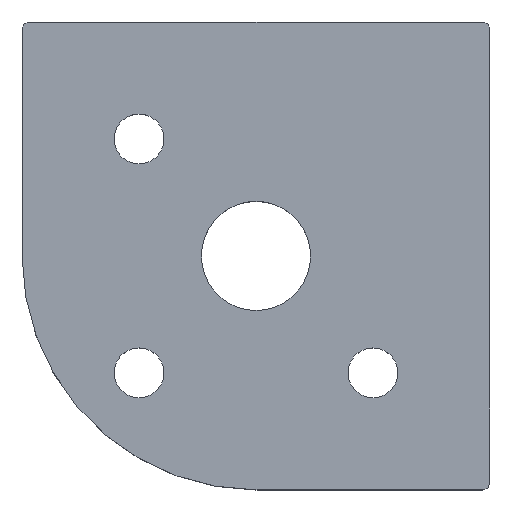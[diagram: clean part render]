
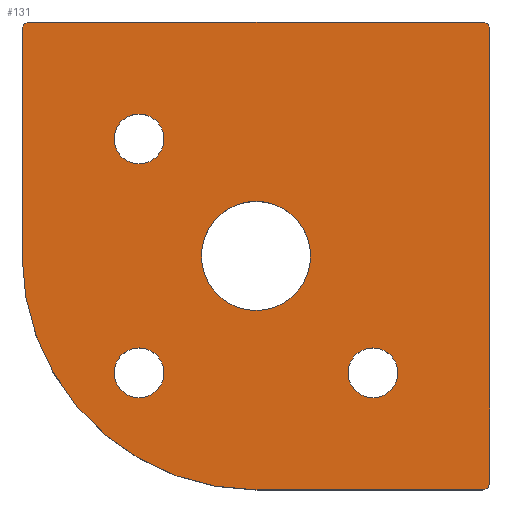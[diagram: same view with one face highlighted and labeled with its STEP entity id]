
A CAD part, top view. The second image highlights one B-rep face of the part: STEP entity #131.
In plain terms, the highlighted planar face has unit normal (0, 0, 1).
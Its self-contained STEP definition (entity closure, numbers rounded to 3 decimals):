
#6 = DIRECTION ( 'NONE',  ( -1., 0., 0. ) ) ;
#13 = CIRCLE ( 'NONE', #484, 7. ) ;
#14 = EDGE_CURVE ( 'NONE', #349, #170, #633, .T. ) ;
#24 = DIRECTION ( 'NONE',  ( -1., 0., 0. ) ) ;
#27 = DIRECTION ( 'NONE',  ( 0., 0., 1. ) ) ;
#33 = CARTESIAN_POINT ( 'NONE',  ( -15., -15., 12. ) ) ;
#38 = VERTEX_POINT ( 'NONE', #677 ) ;
#40 = CARTESIAN_POINT ( 'NONE',  ( -29., 29., 12. ) ) ;
#45 = AXIS2_PLACEMENT_3D ( 'NONE', #434, #337, #351 ) ;
#46 = ORIENTED_EDGE ( 'NONE', *, *, #844, .T. ) ;
#60 = CIRCLE ( 'NONE', #653, 3.2 ) ;
#61 = EDGE_LOOP ( 'NONE', ( #46, #766 ) ) ;
#64 = CARTESIAN_POINT ( 'NONE',  ( 0., -30., 12. ) ) ;
#65 = ORIENTED_EDGE ( 'NONE', *, *, #389, .F. ) ;
#82 = FACE_BOUND ( 'NONE', #759, .T. ) ;
#83 = DIRECTION ( 'NONE',  ( -1., 0., 0. ) ) ;
#87 = FACE_BOUND ( 'NONE', #402, .T. ) ;
#89 = CARTESIAN_POINT ( 'NONE',  ( 15., -15., 12. ) ) ;
#109 = AXIS2_PLACEMENT_3D ( 'NONE', #540, #446, #24 ) ;
#114 = CARTESIAN_POINT ( 'NONE',  ( 0., 0., 12. ) ) ;
#119 = AXIS2_PLACEMENT_3D ( 'NONE', #33, #322, #598 ) ;
#122 = EDGE_LOOP ( 'NONE', ( #911, #817, #895, #336, #65, #275, #395, #495 ) ) ;
#128 = EDGE_LOOP ( 'NONE', ( #265, #261 ) ) ;
#131 = ADVANCED_FACE ( 'NONE', ( #793, #87, #82, #852, #577 ), #358, .F. ) ;
#141 = CIRCLE ( 'NONE', #189, 3.2 ) ;
#148 = VERTEX_POINT ( 'NONE', #217 ) ;
#153 = VERTEX_POINT ( 'NONE', #490 ) ;
#161 = CARTESIAN_POINT ( 'NONE',  ( -30., -30., 12. ) ) ;
#167 = CIRCLE ( 'NONE', #45, 30. ) ;
#170 = VERTEX_POINT ( 'NONE', #291 ) ;
#183 = CIRCLE ( 'NONE', #885, 3.2 ) ;
#187 = EDGE_CURVE ( 'NONE', #497, #230, #167, .T. ) ;
#189 = AXIS2_PLACEMENT_3D ( 'NONE', #235, #668, #241 ) ;
#201 = CARTESIAN_POINT ( 'NONE',  ( -18.2, 15., 12. ) ) ;
#203 = ORIENTED_EDGE ( 'NONE', *, *, #367, .T. ) ;
#204 = EDGE_CURVE ( 'NONE', #332, #279, #183, .T. ) ;
#208 = CARTESIAN_POINT ( 'NONE',  ( -30., 30., 12. ) ) ;
#209 = CIRCLE ( 'NONE', #119, 3.2 ) ;
#211 = VECTOR ( 'NONE', #348, 1000. ) ;
#217 = CARTESIAN_POINT ( 'NONE',  ( -18.2, -15., 12. ) ) ;
#224 = CARTESIAN_POINT ( 'NONE',  ( 30., 30., 12. ) ) ;
#227 = EDGE_CURVE ( 'NONE', #836, #743, #272, .T. ) ;
#230 = VERTEX_POINT ( 'NONE', #64 ) ;
#235 = CARTESIAN_POINT ( 'NONE',  ( -15., -15., 12. ) ) ;
#241 = DIRECTION ( 'NONE',  ( -1., 0., 0. ) ) ;
#242 = EDGE_CURVE ( 'NONE', #325, #153, #13, .T. ) ;
#257 = EDGE_CURVE ( 'NONE', #349, #230, #541, .T. ) ;
#258 = CARTESIAN_POINT ( 'NONE',  ( 15., -15., 12. ) ) ;
#261 = ORIENTED_EDGE ( 'NONE', *, *, #832, .F. ) ;
#265 = ORIENTED_EDGE ( 'NONE', *, *, #242, .F. ) ;
#270 = ORIENTED_EDGE ( 'NONE', *, *, #546, .T. ) ;
#272 = LINE ( 'NONE', #208, #211 ) ;
#275 = ORIENTED_EDGE ( 'NONE', *, *, #750, .T. ) ;
#279 = VERTEX_POINT ( 'NONE', #201 ) ;
#291 = CARTESIAN_POINT ( 'NONE',  ( 30., -29., 12. ) ) ;
#300 = CIRCLE ( 'NONE', #689, 3.2 ) ;
#305 = CARTESIAN_POINT ( 'NONE',  ( 29., 29., 12. ) ) ;
#306 = DIRECTION ( 'NONE',  ( 0., 0., -1. ) ) ;
#313 = DIRECTION ( 'NONE',  ( -1., 0., 0. ) ) ;
#320 = DIRECTION ( 'NONE',  ( 0., 1., 0. ) ) ;
#322 = DIRECTION ( 'NONE',  ( 0., 0., -1. ) ) ;
#325 = VERTEX_POINT ( 'NONE', #698 ) ;
#328 = CARTESIAN_POINT ( 'NONE',  ( 11.8, -15., 12. ) ) ;
#332 = VERTEX_POINT ( 'NONE', #472 ) ;
#333 = VERTEX_POINT ( 'NONE', #405 ) ;
#336 = ORIENTED_EDGE ( 'NONE', *, *, #14, .T. ) ;
#337 = DIRECTION ( 'NONE',  ( 0., 0., 1. ) ) ;
#341 = CARTESIAN_POINT ( 'NONE',  ( -15., 15., 12. ) ) ;
#348 = DIRECTION ( 'NONE',  ( 1., 0., 0. ) ) ;
#349 = VERTEX_POINT ( 'NONE', #796 ) ;
#351 = DIRECTION ( 'NONE',  ( -1., 0., 0. ) ) ;
#358 = PLANE ( 'NONE',  #578 ) ;
#366 = DIRECTION ( 'NONE',  ( 0., -1., 0. ) ) ;
#367 = EDGE_CURVE ( 'NONE', #821, #843, #300, .T. ) ;
#368 = VERTEX_POINT ( 'NONE', #630 ) ;
#370 = CARTESIAN_POINT ( 'NONE',  ( -15., 15., 12. ) ) ;
#380 = CARTESIAN_POINT ( 'NONE',  ( 29., 30., 12. ) ) ;
#389 = EDGE_CURVE ( 'NONE', #368, #170, #425, .T. ) ;
#393 = DIRECTION ( 'NONE',  ( -1., 0., 0. ) ) ;
#395 = ORIENTED_EDGE ( 'NONE', *, *, #227, .F. ) ;
#401 = VECTOR ( 'NONE', #320, 1000. ) ;
#402 = EDGE_LOOP ( 'NONE', ( #492, #409 ) ) ;
#404 = AXIS2_PLACEMENT_3D ( 'NONE', #114, #449, #660 ) ;
#405 = CARTESIAN_POINT ( 'NONE',  ( -30., 29., 12. ) ) ;
#409 = ORIENTED_EDGE ( 'NONE', *, *, #204, .T. ) ;
#410 = DIRECTION ( 'NONE',  ( -1., 0., 0. ) ) ;
#425 = LINE ( 'NONE', #224, #830 ) ;
#434 = CARTESIAN_POINT ( 'NONE',  ( 0., 0., 12. ) ) ;
#446 = DIRECTION ( 'NONE',  ( 0., 0., 1. ) ) ;
#449 = DIRECTION ( 'NONE',  ( 0., 0., 1. ) ) ;
#466 = CIRCLE ( 'NONE', #748, 3.2 ) ;
#472 = CARTESIAN_POINT ( 'NONE',  ( -11.8, 15., 12. ) ) ;
#479 = EDGE_CURVE ( 'NONE', #279, #332, #60, .T. ) ;
#484 = AXIS2_PLACEMENT_3D ( 'NONE', #551, #906, #554 ) ;
#490 = CARTESIAN_POINT ( 'NONE',  ( -7., 0., 12. ) ) ;
#492 = ORIENTED_EDGE ( 'NONE', *, *, #479, .T. ) ;
#495 = ORIENTED_EDGE ( 'NONE', *, *, #778, .T. ) ;
#497 = VERTEX_POINT ( 'NONE', #861 ) ;
#504 = DIRECTION ( 'NONE',  ( -1., 0., 0. ) ) ;
#506 = EDGE_CURVE ( 'NONE', #38, #148, #141, .T. ) ;
#540 = CARTESIAN_POINT ( 'NONE',  ( 29., -29., 12. ) ) ;
#541 = LINE ( 'NONE', #624, #767 ) ;
#546 = EDGE_CURVE ( 'NONE', #843, #821, #466, .T. ) ;
#551 = CARTESIAN_POINT ( 'NONE',  ( 0., 0., 12. ) ) ;
#554 = DIRECTION ( 'NONE',  ( 1., 0., 0. ) ) ;
#577 = FACE_OUTER_BOUND ( 'NONE', #122, .T. ) ;
#578 = AXIS2_PLACEMENT_3D ( 'NONE', #789, #841, #504 ) ;
#591 = DIRECTION ( 'NONE',  ( 0., 0., 1. ) ) ;
#598 = DIRECTION ( 'NONE',  ( -1., 0., 0. ) ) ;
#624 = CARTESIAN_POINT ( 'NONE',  ( 30., -30., 12. ) ) ;
#630 = CARTESIAN_POINT ( 'NONE',  ( 30., 29., 12. ) ) ;
#633 = CIRCLE ( 'NONE', #109, 1. ) ;
#645 = DIRECTION ( 'NONE',  ( 0., 0., -1. ) ) ;
#649 = CIRCLE ( 'NONE', #839, 1. ) ;
#653 = AXIS2_PLACEMENT_3D ( 'NONE', #370, #306, #6 ) ;
#660 = DIRECTION ( 'NONE',  ( 1., 0., 0. ) ) ;
#664 = CARTESIAN_POINT ( 'NONE',  ( 18.2, -15., 12. ) ) ;
#666 = EDGE_CURVE ( 'NONE', #497, #333, #798, .T. ) ;
#668 = DIRECTION ( 'NONE',  ( 0., 0., -1. ) ) ;
#669 = CARTESIAN_POINT ( 'NONE',  ( -29., 30., 12. ) ) ;
#677 = CARTESIAN_POINT ( 'NONE',  ( -11.8, -15., 12. ) ) ;
#683 = DIRECTION ( 'NONE',  ( -1., 0., 0. ) ) ;
#689 = AXIS2_PLACEMENT_3D ( 'NONE', #89, #645, #83 ) ;
#698 = CARTESIAN_POINT ( 'NONE',  ( 7., 0., 12. ) ) ;
#727 = AXIS2_PLACEMENT_3D ( 'NONE', #305, #591, #802 ) ;
#743 = VERTEX_POINT ( 'NONE', #380 ) ;
#748 = AXIS2_PLACEMENT_3D ( 'NONE', #258, #804, #313 ) ;
#750 = EDGE_CURVE ( 'NONE', #368, #743, #912, .T. ) ;
#759 = EDGE_LOOP ( 'NONE', ( #203, #270 ) ) ;
#766 = ORIENTED_EDGE ( 'NONE', *, *, #506, .T. ) ;
#767 = VECTOR ( 'NONE', #410, 1000. ) ;
#778 = EDGE_CURVE ( 'NONE', #836, #333, #649, .T. ) ;
#789 = CARTESIAN_POINT ( 'NONE',  ( 0., 0., 12. ) ) ;
#793 = FACE_BOUND ( 'NONE', #61, .T. ) ;
#796 = CARTESIAN_POINT ( 'NONE',  ( 29., -30., 12. ) ) ;
#798 = LINE ( 'NONE', #161, #401 ) ;
#799 = CIRCLE ( 'NONE', #404, 7. ) ;
#802 = DIRECTION ( 'NONE',  ( -1., 0., 0. ) ) ;
#804 = DIRECTION ( 'NONE',  ( 0., 0., -1. ) ) ;
#817 = ORIENTED_EDGE ( 'NONE', *, *, #187, .T. ) ;
#821 = VERTEX_POINT ( 'NONE', #328 ) ;
#828 = DIRECTION ( 'NONE',  ( 0., 0., -1. ) ) ;
#830 = VECTOR ( 'NONE', #366, 1000. ) ;
#832 = EDGE_CURVE ( 'NONE', #153, #325, #799, .T. ) ;
#836 = VERTEX_POINT ( 'NONE', #669 ) ;
#839 = AXIS2_PLACEMENT_3D ( 'NONE', #40, #27, #393 ) ;
#841 = DIRECTION ( 'NONE',  ( 0., 0., -1. ) ) ;
#843 = VERTEX_POINT ( 'NONE', #664 ) ;
#844 = EDGE_CURVE ( 'NONE', #148, #38, #209, .T. ) ;
#852 = FACE_BOUND ( 'NONE', #128, .T. ) ;
#861 = CARTESIAN_POINT ( 'NONE',  ( -30., 0., 12. ) ) ;
#885 = AXIS2_PLACEMENT_3D ( 'NONE', #341, #828, #683 ) ;
#895 = ORIENTED_EDGE ( 'NONE', *, *, #257, .F. ) ;
#906 = DIRECTION ( 'NONE',  ( 0., 0., 1. ) ) ;
#911 = ORIENTED_EDGE ( 'NONE', *, *, #666, .F. ) ;
#912 = CIRCLE ( 'NONE', #727, 1. ) ;
